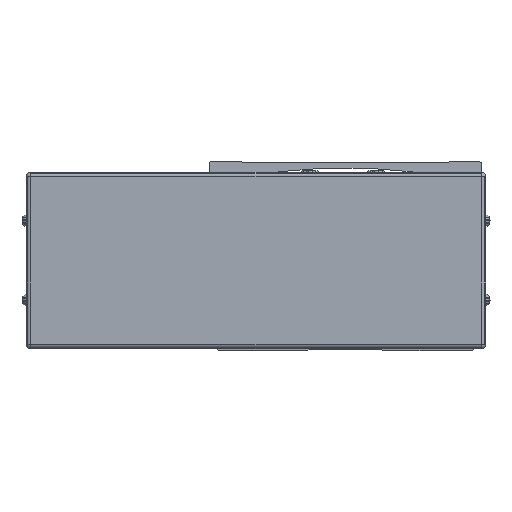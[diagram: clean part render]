
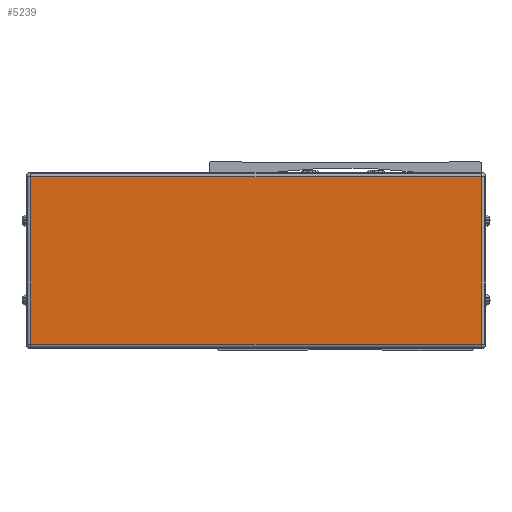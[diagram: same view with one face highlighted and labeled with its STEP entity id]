
A CAD part, front view. The second image highlights one B-rep face of the part: STEP entity #5239.
In plain terms, the highlighted planar face has unit normal (0, -1, 0).
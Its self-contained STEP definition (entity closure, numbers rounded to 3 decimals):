
#5239=ADVANCED_FACE('',(#11868),#11869,.F.);
#11868=FACE_OUTER_BOUND('',#20805,.T.);
#11869=PLANE('',#20806);
#20805=EDGE_LOOP('',(#36669,#36670,#36671,#36672));
#20806=AXIS2_PLACEMENT_3D('',#36673,#36674,#36675);
#36669=ORIENTED_EDGE('',*,*,#53196,.T.);
#36670=ORIENTED_EDGE('',*,*,#55688,.T.);
#36671=ORIENTED_EDGE('',*,*,#55689,.T.);
#36672=ORIENTED_EDGE('',*,*,#50780,.T.);
#36673=CARTESIAN_POINT('',(-340.5,-613.778,-8.));
#36674=DIRECTION('',(0.,1.0,0.));
#36675=DIRECTION('',(-1.0,0.,0.));
#50780=EDGE_CURVE('',#59483,#60832,#60834,.T.);
#53196=EDGE_CURVE('',#60832,#64954,#64956,.T.);
#55688=EDGE_CURVE('',#64954,#68703,#68704,.T.);
#55689=EDGE_CURVE('',#68703,#59483,#68705,.T.);
#59483=VERTEX_POINT('',#73312);
#60832=VERTEX_POINT('',#75099);
#60834=LINE('',#75101,#75102);
#64954=VERTEX_POINT('',#81049);
#64956=LINE('',#81051,#81052);
#68703=VERTEX_POINT('',#86792);
#68704=LINE('',#86793,#86794);
#68705=LINE('',#86795,#86796);
#73312=CARTESIAN_POINT('',(-238.3,-613.778,30.));
#75099=CARTESIAN_POINT('',(-442.7,-613.778,30.));
#75101=CARTESIAN_POINT('',(-340.5,-613.778,30.));
#75102=VECTOR('',#94049,10.0);
#81049=CARTESIAN_POINT('',(-442.7,-613.778,-46.));
#81051=CARTESIAN_POINT('',(-442.7,-613.778,-8.));
#81052=VECTOR('',#97072,10.0);
#86792=CARTESIAN_POINT('',(-238.3,-613.778,-46.));
#86793=CARTESIAN_POINT('',(-340.5,-613.778,-46.));
#86794=VECTOR('',#100057,10.0);
#86795=CARTESIAN_POINT('',(-238.3,-613.778,-8.));
#86796=VECTOR('',#100058,10.0);
#94049=DIRECTION('',(-1.0,0.,0.));
#97072=DIRECTION('',(0.0,0.,-1.0));
#100057=DIRECTION('',(1.0,0.,0.));
#100058=DIRECTION('',(0.0,0.,1.0));
